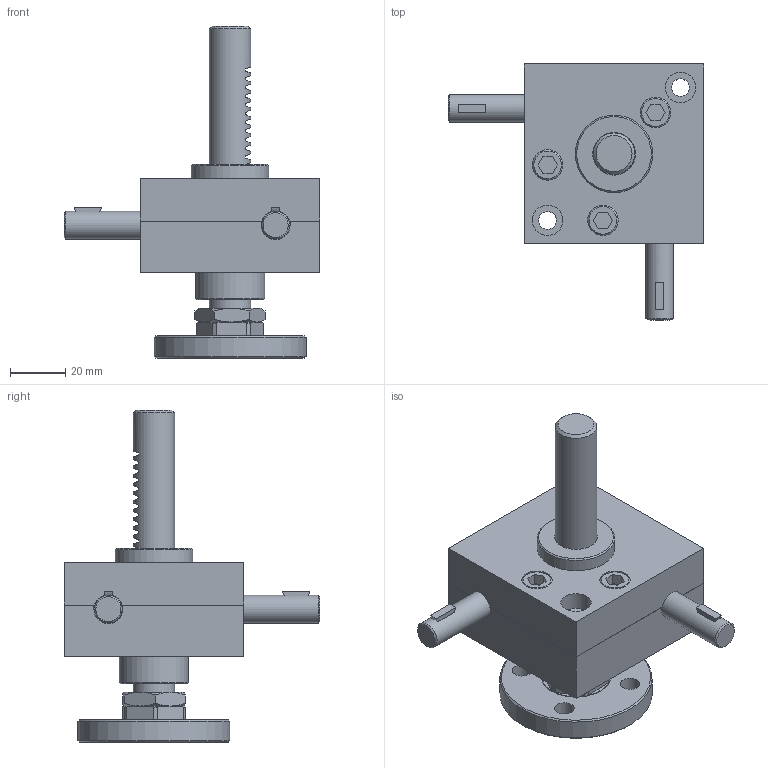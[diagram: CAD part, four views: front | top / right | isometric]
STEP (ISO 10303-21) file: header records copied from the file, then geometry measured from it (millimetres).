
FILE_DESCRIPTION(('STEP AP203'),'1');
FILE_NAME('SP1-100FU-50ST.stp','2022-06-15T02:46:00',(' '),(' '),'Spatial InterOp 3D',' ',' ');
FILE_SCHEMA(('CONFIG_CONTROL_DESIGN'));
Length unit declared in the file: millimetre
Products named in the file (12): SP1-100FU-50ST; Rack Gear(SP-100F); Flange-Part; Nut(SP100); Joint(SP100); Flange(SP100); Body-Part; Key; Bolt; Shaft(SP1-100); Gear Box(Lower); Gear Box(Upper)
Assembly tree (15 placements, depth 3):
  SP1-100FU-50ST
    Rack Gear(SP-100F)
    Flange-Part
      Nut(SP100)
      Joint(SP100)
      Flange(SP100)
    Body-Part
      Key  x2
      Bolt  x3
      Shaft(SP1-100)  x2
      Gear Box(Lower)
      Gear Box(Upper)
Bounding box: 92.5 x 92.5 x 120 mm (x, y, z)
Volume: 131885 mm3; surface area: 61925.5 mm2
Topology: 13 solids, 13 shells, 462 faces, 1129 edges, 745 vertices
Faces by surface type: plane 333, cylinder 83, cone 41, torus 5
Full cylindrical faces by diameter (mm): 5 x6, 6.4 x7, 7 x4, 10 x2, 11 x8, 13.8 x1, 15 x3, 15.4 x2, 17 x3, 24.5 x1, 25 x2, 28 x2, 29 x1, 55 x1
Entity records: 12650 total; most frequent: CARTESIAN_POINT 2411, DIRECTION 2043, ORIENTED_EDGE 1834, EDGE_CURVE 917, AXIS2_PLACEMENT_3D 746, VERTEX_POINT 641, EDGE_LOOP 570, LINE 551
